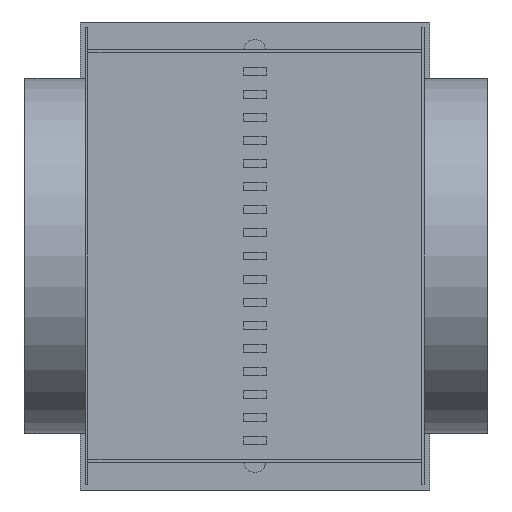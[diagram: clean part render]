
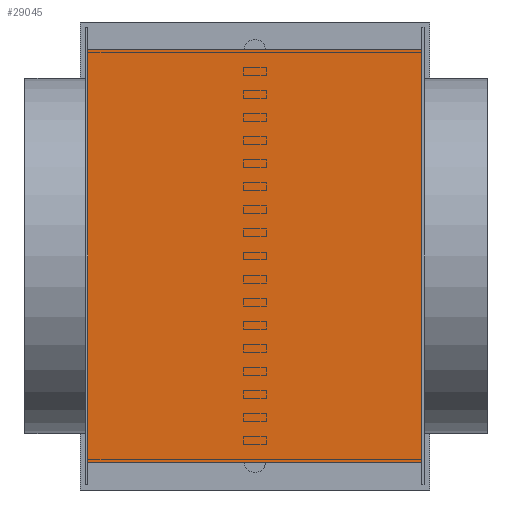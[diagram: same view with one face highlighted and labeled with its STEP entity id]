
A CAD part, left-side view. The second image highlights one B-rep face of the part: STEP entity #29045.
In plain terms, the highlighted planar face has unit normal (-1, 0, 0).
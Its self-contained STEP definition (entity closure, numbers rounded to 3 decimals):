
#3935=LINE('',#45042,#7875);
#3936=LINE('',#45044,#7876);
#3937=LINE('',#45046,#7877);
#3938=LINE('',#45047,#7878);
#7875=VECTOR('',#36984,10.);
#7876=VECTOR('',#36985,10.);
#7877=VECTOR('',#36986,10.);
#7878=VECTOR('',#36987,10.);
#9147=PLANE('',#30393);
#11094=FACE_OUTER_BOUND('',#12999,.T.);
#12999=EDGE_LOOP('',(#27683,#27684,#27685,#27686));
#15761=VERTEX_POINT('',#45040);
#15762=VERTEX_POINT('',#45041);
#15763=VERTEX_POINT('',#45043);
#15764=VERTEX_POINT('',#45045);
#19749=EDGE_CURVE('',#15761,#15762,#3935,.T.);
#19750=EDGE_CURVE('',#15761,#15763,#3936,.T.);
#19751=EDGE_CURVE('',#15763,#15764,#3937,.T.);
#19752=EDGE_CURVE('',#15764,#15762,#3938,.T.);
#27683=ORIENTED_EDGE('',*,*,#19749,.F.);
#27684=ORIENTED_EDGE('',*,*,#19750,.T.);
#27685=ORIENTED_EDGE('',*,*,#19751,.T.);
#27686=ORIENTED_EDGE('',*,*,#19752,.T.);
#29045=ADVANCED_FACE('',(#11094),#9147,.T.);
#30393=AXIS2_PLACEMENT_3D('',#45039,#36982,#36983);
#36982=DIRECTION('center_axis',(-1.,0.,0.));
#36983=DIRECTION('ref_axis',(0.,0.,1.));
#36984=DIRECTION('',(0.,-1.,0.));
#36985=DIRECTION('',(0.,0.,-1.));
#36986=DIRECTION('',(0.,-1.,0.));
#36987=DIRECTION('',(0.,0.,1.));
#45039=CARTESIAN_POINT('Origin',(-178.2,0.,-182.7));
#45040=CARTESIAN_POINT('',(-178.2,148.,182.7));
#45041=CARTESIAN_POINT('',(-178.2,-148.,182.7));
#45042=CARTESIAN_POINT('',(-178.2,0.,182.7));
#45043=CARTESIAN_POINT('',(-178.2,148.,-182.7));
#45044=CARTESIAN_POINT('',(-178.2,148.,-91.35));
#45045=CARTESIAN_POINT('',(-178.2,-148.,-182.7));
#45046=CARTESIAN_POINT('',(-178.2,0.,-182.7));
#45047=CARTESIAN_POINT('',(-178.2,-148.,-91.35));
